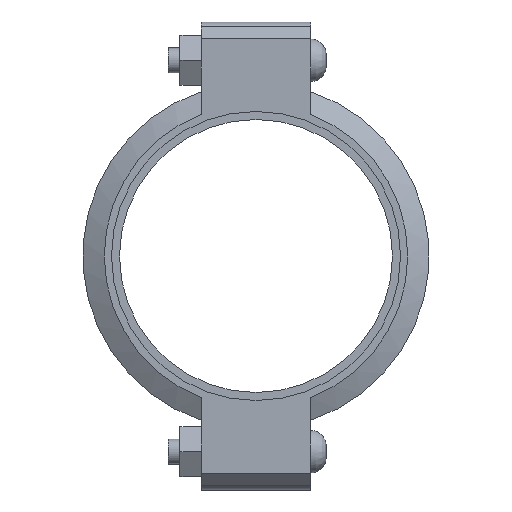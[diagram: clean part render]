
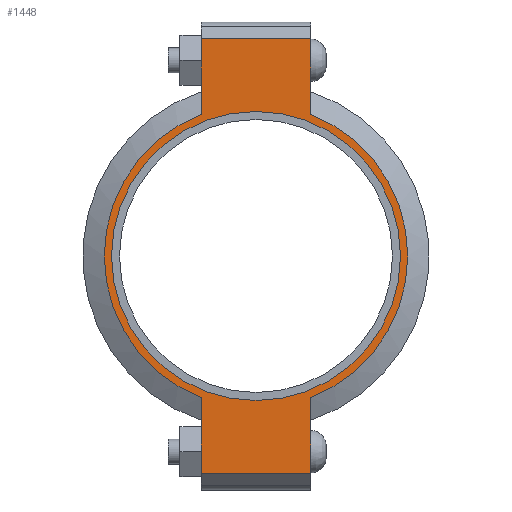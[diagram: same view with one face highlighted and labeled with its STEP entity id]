
A CAD part, left-side view. The second image highlights one B-rep face of the part: STEP entity #1448.
In plain terms, the highlighted planar face has unit normal (-1, 0, 0) as drawn and (0, 0, 1) by its records, which use the part's own axes.
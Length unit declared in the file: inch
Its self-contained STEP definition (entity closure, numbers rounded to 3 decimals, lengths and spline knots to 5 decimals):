
#128=LINE('',#2493,#219);
#136=LINE('',#2529,#227);
#143=LINE('',#2550,#234);
#152=LINE('',#2582,#243);
#153=LINE('',#2586,#244);
#154=LINE('',#2588,#245);
#219=VECTOR('',#2019,0.3937);
#227=VECTOR('',#2035,0.3937);
#234=VECTOR('',#2054,0.3937);
#243=VECTOR('',#2079,0.3937);
#244=VECTOR('',#2084,0.3937);
#245=VECTOR('',#2085,0.3937);
#297=FACE_BOUND('',#457,.T.);
#361=FACE_OUTER_BOUND('',#456,.T.);
#456=EDGE_LOOP('',(#1183,#1184,#1185,#1186,#1187,#1188,#1189,#1190));
#457=EDGE_LOOP('',(#1191));
#554=CIRCLE('',#1691,4.53);
#555=CIRCLE('',#1692,4.53);
#556=CIRCLE('',#1693,4.3125);
#659=VERTEX_POINT('',#2490);
#660=VERTEX_POINT('',#2492);
#671=VERTEX_POINT('',#2524);
#672=VERTEX_POINT('',#2528);
#679=VERTEX_POINT('',#2547);
#680=VERTEX_POINT('',#2549);
#690=VERTEX_POINT('',#2585);
#691=VERTEX_POINT('',#2587);
#692=VERTEX_POINT('',#2590);
#823=EDGE_CURVE('',#660,#659,#128,.T.);
#837=EDGE_CURVE('',#672,#671,#136,.T.);
#847=EDGE_CURVE('',#680,#679,#143,.T.);
#862=EDGE_CURVE('',#672,#659,#152,.T.);
#863=EDGE_CURVE('',#671,#680,#554,.T.);
#864=EDGE_CURVE('',#690,#679,#153,.T.);
#865=EDGE_CURVE('',#690,#691,#154,.T.);
#866=EDGE_CURVE('',#691,#660,#555,.T.);
#867=EDGE_CURVE('',#692,#692,#556,.T.);
#1183=ORIENTED_EDGE('',*,*,#862,.F.);
#1184=ORIENTED_EDGE('',*,*,#837,.T.);
#1185=ORIENTED_EDGE('',*,*,#863,.T.);
#1186=ORIENTED_EDGE('',*,*,#847,.T.);
#1187=ORIENTED_EDGE('',*,*,#864,.F.);
#1188=ORIENTED_EDGE('',*,*,#865,.T.);
#1189=ORIENTED_EDGE('',*,*,#866,.T.);
#1190=ORIENTED_EDGE('',*,*,#823,.T.);
#1191=ORIENTED_EDGE('',*,*,#867,.T.);
#1302=PLANE('',#1690);
#1448=ADVANCED_FACE('',(#361,#297),#1302,.T.);
#1690=AXIS2_PLACEMENT_3D('',#2583,#2080,#2081);
#1691=AXIS2_PLACEMENT_3D('',#2584,#2082,#2083);
#1692=AXIS2_PLACEMENT_3D('',#2589,#2086,#2087);
#1693=AXIS2_PLACEMENT_3D('',#2591,#2088,#2089);
#2019=DIRECTION('',(-1.,0.,0.));
#2035=DIRECTION('',(1.,0.,0.));
#2054=DIRECTION('',(1.,0.,0.));
#2079=DIRECTION('',(0.,1.,0.));
#2080=DIRECTION('center_axis',(0.,0.,1.));
#2081=DIRECTION('ref_axis',(1.,0.,0.));
#2082=DIRECTION('center_axis',(0.,0.,1.));
#2083=DIRECTION('ref_axis',(-1.,0.,0.));
#2084=DIRECTION('',(0.,-1.,0.));
#2085=DIRECTION('',(-1.,0.,0.));
#2086=DIRECTION('center_axis',(0.,0.,1.));
#2087=DIRECTION('ref_axis',(-1.,0.,0.));
#2088=DIRECTION('center_axis',(0.,0.,-1.));
#2089=DIRECTION('ref_axis',(-1.,0.,0.));
#2490=CARTESIAN_POINT('',(-6.485,1.63,1.16));
#2492=CARTESIAN_POINT('',(-4.22658,1.63,1.16));
#2493=CARTESIAN_POINT('',(-6.985,1.63,1.16));
#2524=CARTESIAN_POINT('',(-4.22658,-1.63,1.16));
#2528=CARTESIAN_POINT('',(-6.485,-1.63,1.16));
#2529=CARTESIAN_POINT('',(6.985,-1.63,1.16));
#2547=CARTESIAN_POINT('',(6.485,-1.63,1.16));
#2549=CARTESIAN_POINT('',(4.22658,-1.63,1.16));
#2550=CARTESIAN_POINT('',(6.985,-1.63,1.16));
#2582=CARTESIAN_POINT('',(-6.485,0.815,1.16));
#2583=CARTESIAN_POINT('Origin',(0.,0.,
1.16));
#2584=CARTESIAN_POINT('Origin',(0.,0.,1.16));
#2585=CARTESIAN_POINT('',(6.485,1.63,1.16));
#2586=CARTESIAN_POINT('',(6.485,-0.815,1.16));
#2587=CARTESIAN_POINT('',(4.22658,1.63,1.16));
#2588=CARTESIAN_POINT('',(-6.985,1.63,1.16));
#2589=CARTESIAN_POINT('Origin',(0.,0.,1.16));
#2590=CARTESIAN_POINT('',(4.3125,0.,1.16));
#2591=CARTESIAN_POINT('Origin',(0.,0.,1.16));
